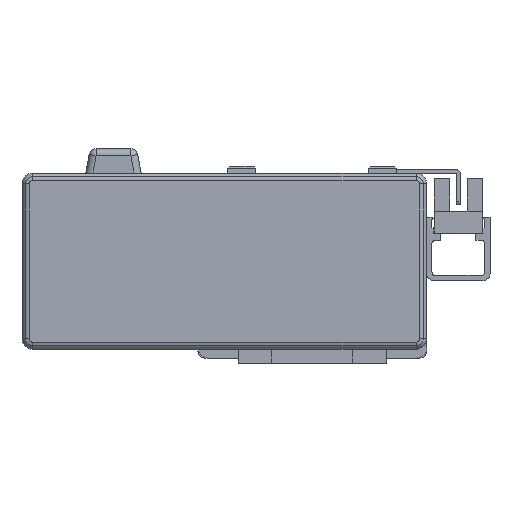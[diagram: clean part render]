
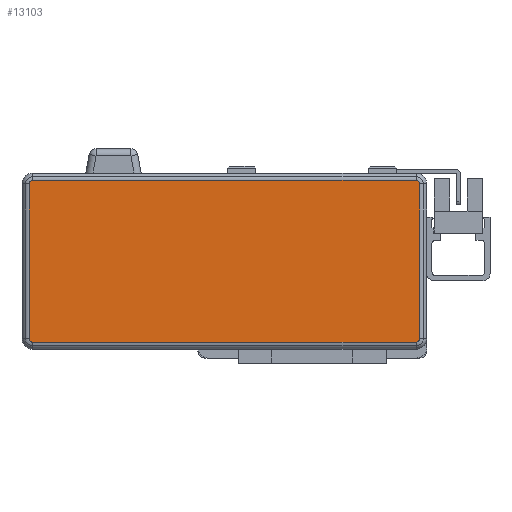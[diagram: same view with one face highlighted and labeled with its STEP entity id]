
A CAD part, left-side view. The second image highlights one B-rep face of the part: STEP entity #13103.
In plain terms, the highlighted planar face has unit normal (-1, 0, 0) as drawn and (0, 0, 1) by its records, which use the part's own axes.
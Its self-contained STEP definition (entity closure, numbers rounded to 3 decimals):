
#432 = CARTESIAN_POINT ( 'NONE',  ( 55.5, 22., 40. ) ) ;
#883 = DIRECTION ( 'NONE',  ( -1., 0., 0. ) ) ;
#936 = DIRECTION ( 'NONE',  ( 0., 0., 1. ) ) ;
#972 = CARTESIAN_POINT ( 'NONE',  ( -54.5, -22., 40. ) ) ;
#1116 = FACE_OUTER_BOUND ( 'NONE', #10219, .T. ) ;
#2233 = DIRECTION ( 'NONE',  ( -1., 0., 0. ) ) ;
#2442 = DIRECTION ( 'NONE',  ( 0., 0., 1. ) ) ;
#2478 = CARTESIAN_POINT ( 'NONE',  ( -54.5, 22., 40. ) ) ;
#2537 = CARTESIAN_POINT ( 'NONE',  ( -55.5, 0., 40. ) ) ;
#2581 = PLANE ( 'NONE',  #9627 ) ;
#3307 = DIRECTION ( 'NONE',  ( 0., -1., 0. ) ) ;
#3634 = EDGE_CURVE ( 'NONE', #25621, #22037, #12514, .T. ) ;
#3711 = EDGE_CURVE ( 'NONE', #22037, #23179, #11989, .T. ) ;
#3786 = EDGE_CURVE ( 'NONE', #23179, #4769, #11739, .T. ) ;
#3824 = EDGE_CURVE ( 'NONE', #4769, #23452, #11588, .T. ) ;
#3865 = EDGE_CURVE ( 'NONE', #23452, #11887, #11562, .T. ) ;
#3937 = EDGE_CURVE ( 'NONE', #11887, #5288, #11145, .T. ) ;
#3942 = EDGE_CURVE ( 'NONE', #5288, #10432, #11174, .T. ) ;
#3976 = EDGE_CURVE ( 'NONE', #10432, #25621, #11010, .T. ) ;
#4769 = VERTEX_POINT ( 'NONE', #432 ) ;
#5217 = DIRECTION ( 'NONE',  ( -1., 0., 0. ) ) ;
#5288 = VERTEX_POINT ( 'NONE', #19944 ) ;
#5314 = CARTESIAN_POINT ( 'NONE',  ( 0., 23., 40. ) ) ;
#6242 = DIRECTION ( 'NONE',  ( -1., 0., 0. ) ) ;
#6294 = DIRECTION ( 'NONE',  ( 0., 0., 1. ) ) ;
#6340 = CARTESIAN_POINT ( 'NONE',  ( 54.5, 22., 40. ) ) ;
#6873 = DIRECTION ( 'NONE',  ( 0., 0., -1. ) ) ;
#7709 = CARTESIAN_POINT ( 'NONE',  ( 55.5, 0., 40. ) ) ;
#7933 = CARTESIAN_POINT ( 'NONE',  ( -54.5, -23., 40. ) ) ;
#8640 = DIRECTION ( 'NONE',  ( 0., 1., 0. ) ) ;
#8848 = DIRECTION ( 'NONE',  ( -1., 0., 0. ) ) ;
#8969 = DIRECTION ( 'NONE',  ( 0., 0., 1. ) ) ;
#8976 = CARTESIAN_POINT ( 'NONE',  ( 0., 0., 40. ) ) ;
#9117 = CARTESIAN_POINT ( 'NONE',  ( 54.5, -22., 40. ) ) ;
#9627 = AXIS2_PLACEMENT_3D ( 'NONE', #8976, #6873, #21838 ) ;
#10219 = EDGE_LOOP ( 'NONE', ( #10633, #10637, #10871, #10918, #11081, #11135, #11378, #11416 ) ) ;
#10432 = VERTEX_POINT ( 'NONE', #13459 ) ;
#10633 = ORIENTED_EDGE ( 'NONE', *, *, #3634, .T. ) ;
#10637 = ORIENTED_EDGE ( 'NONE', *, *, #3711, .T. ) ;
#10871 = ORIENTED_EDGE ( 'NONE', *, *, #3786, .T. ) ;
#10918 = ORIENTED_EDGE ( 'NONE', *, *, #3824, .T. ) ;
#11010 = CIRCLE ( 'NONE', #25963, 1. ) ;
#11062 = VECTOR ( 'NONE', #3307, 1000. ) ;
#11081 = ORIENTED_EDGE ( 'NONE', *, *, #3865, .T. ) ;
#11123 = CARTESIAN_POINT ( 'NONE',  ( -54.5, 23., 40. ) ) ;
#11135 = ORIENTED_EDGE ( 'NONE', *, *, #3937, .T. ) ;
#11145 = CIRCLE ( 'NONE', #26087, 1. ) ;
#11174 = LINE ( 'NONE', #2537, #11062 ) ;
#11375 = VECTOR ( 'NONE', #5217, 1000. ) ;
#11378 = ORIENTED_EDGE ( 'NONE', *, *, #3942, .T. ) ;
#11416 = ORIENTED_EDGE ( 'NONE', *, *, #3976, .T. ) ;
#11562 = LINE ( 'NONE', #5314, #11375 ) ;
#11588 = CIRCLE ( 'NONE', #26382, 1. ) ;
#11709 = VECTOR ( 'NONE', #8640, 1000. ) ;
#11719 = CARTESIAN_POINT ( 'NONE',  ( 0., -23., 40. ) ) ;
#11739 = LINE ( 'NONE', #7709, #11709 ) ;
#11887 = VERTEX_POINT ( 'NONE', #11123 ) ;
#11989 = CIRCLE ( 'NONE', #26536, 1. ) ;
#12273 = DIRECTION ( 'NONE',  ( 1., 0., 0. ) ) ;
#12278 = CARTESIAN_POINT ( 'NONE',  ( 54.5, -23., 40. ) ) ;
#12304 = VECTOR ( 'NONE', #12273, 1000. ) ;
#12514 = LINE ( 'NONE', #11719, #12304 ) ;
#13103 = ADVANCED_FACE ( 'NONE', ( #1116 ), #2581, .F. ) ;
#13459 = CARTESIAN_POINT ( 'NONE',  ( -55.5, -22., 40. ) ) ;
#19944 = CARTESIAN_POINT ( 'NONE',  ( -55.5, 22., 40. ) ) ;
#21719 = CARTESIAN_POINT ( 'NONE',  ( 54.5, 23., 40. ) ) ;
#21838 = DIRECTION ( 'NONE',  ( -1., 0., 0. ) ) ;
#22037 = VERTEX_POINT ( 'NONE', #12278 ) ;
#22758 = CARTESIAN_POINT ( 'NONE',  ( 55.5, -22., 40. ) ) ;
#23179 = VERTEX_POINT ( 'NONE', #22758 ) ;
#23452 = VERTEX_POINT ( 'NONE', #21719 ) ;
#25621 = VERTEX_POINT ( 'NONE', #7933 ) ;
#25963 = AXIS2_PLACEMENT_3D ( 'NONE', #972, #936, #883 ) ;
#26087 = AXIS2_PLACEMENT_3D ( 'NONE', #2478, #2442, #2233 ) ;
#26382 = AXIS2_PLACEMENT_3D ( 'NONE', #6340, #6294, #6242 ) ;
#26536 = AXIS2_PLACEMENT_3D ( 'NONE', #9117, #8969, #8848 ) ;
